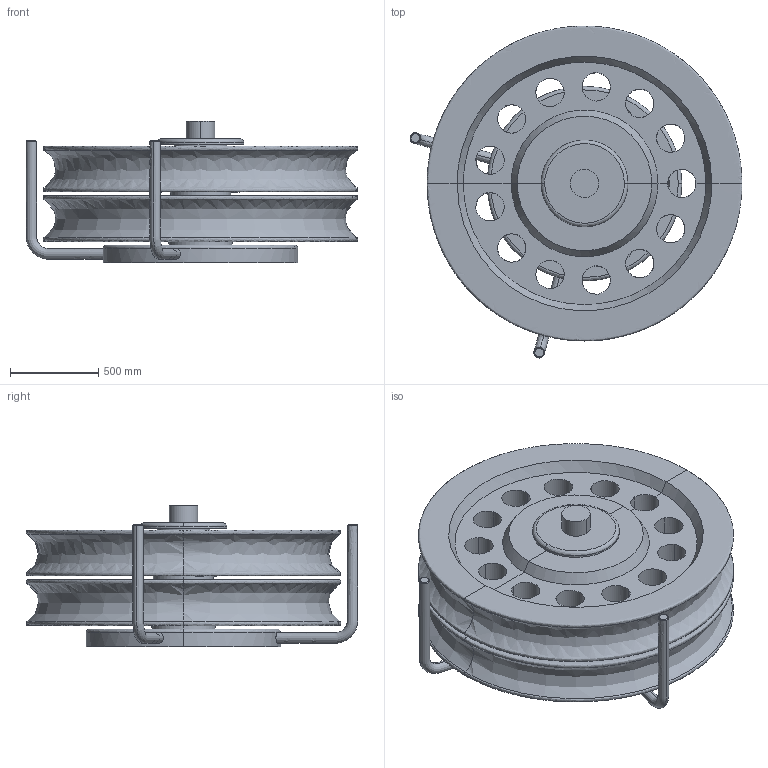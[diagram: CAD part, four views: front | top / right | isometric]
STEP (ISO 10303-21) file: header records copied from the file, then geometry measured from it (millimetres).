
FILE_DESCRIPTION(/* description */ (''),/* implementation_level */ '2;1');
FILE_NAME(/* name */ 'POULIE DOUBLE PLAT PONT D 180',/* time_stamp */ '2005-05-31T08:56:21+02:00',/* author */ (''),/* organization */ (''),/* preprocessor_version */ 'ST-DEVELOPER v8',/* originating_system */ '',/* authorisation */ '');
FILE_SCHEMA (('CONFIG_CONTROL_DESIGN'));
Length unit declared in the file: centimetre
Products named in the file (1): 1
Bounding box: 1876.17 x 1876.25 x 800 mm (x, y, z)
Volume: 898529191.8 mm3; surface area: 21251515.3 mm2
Topology: 13 solids, 13 shells, 270 faces, 614 edges, 358 vertices
Faces by surface type: bspline 270
Entity records: 12421 total; most frequent: CARTESIAN_POINT 8818, ORIENTED_EDGE 1220, EDGE_CURVE 610, VERTEX_POINT 371, EDGE_LOOP 342, B_SPLINE_CURVE_WITH_KNOTS 292, ADVANCED_FACE 270, FACE_OUTER_BOUND 270
